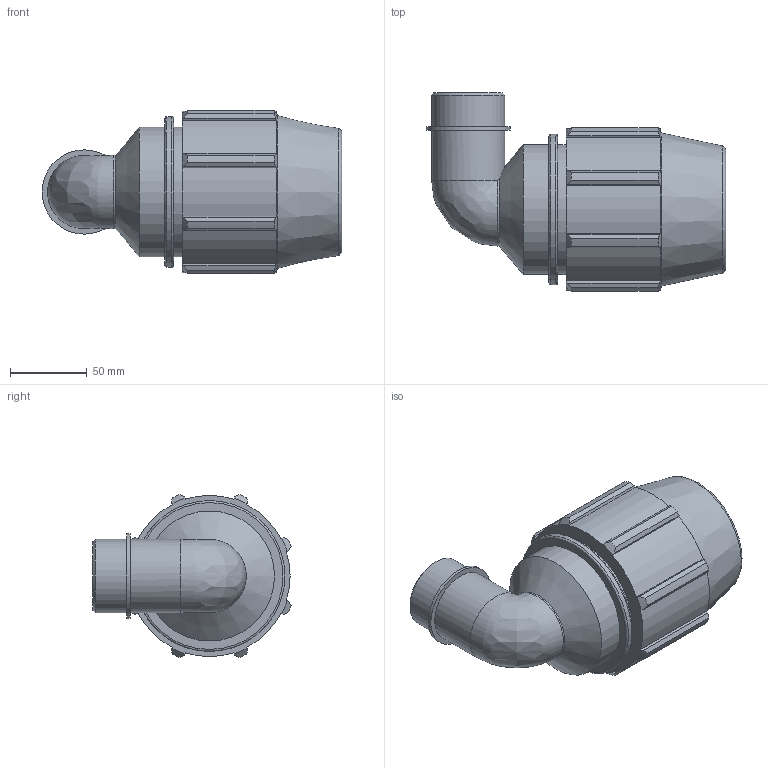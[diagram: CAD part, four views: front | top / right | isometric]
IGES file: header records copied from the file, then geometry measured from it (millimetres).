
Global section: file name: 078500063015_188500063015_0785060630150A.ipt; native system: Autodesk Inventor 2015; preprocessor: unknown; author: KIM; date: 20170606.133143; units: millimetre
Bounding box: 195.49 x 129.16 x 106.32 mm (x, y, z)
Volume: 752605.8 mm3; surface area: 110688.2 mm2
Topology: 1 solids, 1 shells, 86 faces, 237 edges, 158 vertices
Faces by surface type: plane 41, cylinder 23, cone 12, revolution 9, bspline 1
Full cylindrical faces by diameter (mm): 47.803 x2, 54.973 x1, 84.75 x2, 98.31 x1
